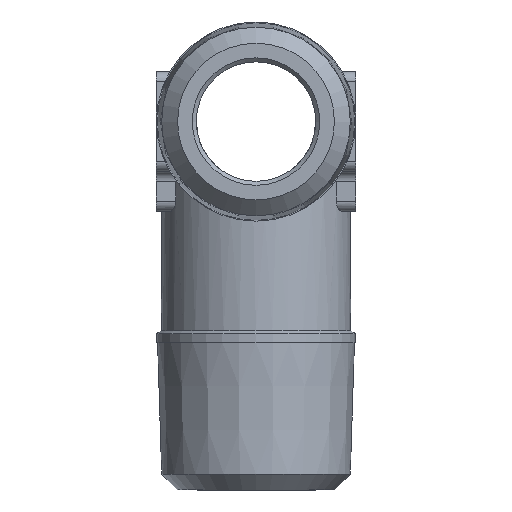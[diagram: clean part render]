
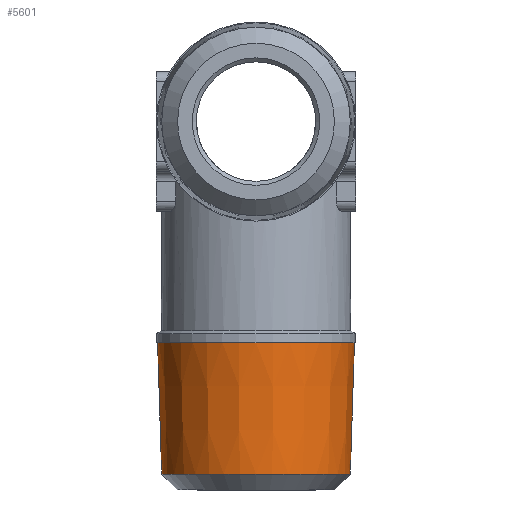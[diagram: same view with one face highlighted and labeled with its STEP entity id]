
A CAD part, left-side view. The second image highlights one B-rep face of the part: STEP entity #5601.
In plain terms, the highlighted conical face has half-angle 1.79 degrees and reference radius 4.942 mm.
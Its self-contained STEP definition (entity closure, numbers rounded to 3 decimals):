
#1512=ORIENTED_EDGE('',*,*,#1900,.F.);
#1513=ORIENTED_EDGE('',*,*,#1901,.F.);
#1758=CIRCLE('',#5490,4.736);
#1759=CIRCLE('',#5491,4.942);
#1806=VERTEX_POINT('',#2500);
#1807=VERTEX_POINT('',#2502);
#1900=EDGE_CURVE('',#1806,#1806,#1758,.T.);
#1901=EDGE_CURVE('',#1807,#1807,#1759,.T.);
#2034=EDGE_LOOP('',(#1512));
#2035=EDGE_LOOP('',(#1513));
#2120=FACE_BOUND('',#2034,.T.);
#2121=FACE_BOUND('',#2035,.T.);
#2227=DIRECTION('',(0.,1.,0.));
#2228=DIRECTION('',(0.,0.,1.));
#2229=DIRECTION('',(0.,-1.,0.));
#2230=DIRECTION('',(0.,0.,4.736));
#2231=DIRECTION('',(0.,1.,0.));
#2232=DIRECTION('',(0.,0.,-4.942));
#2499=CARTESIAN_POINT('',(32.783,13.46,0.));
#2500=CARTESIAN_POINT('',(32.783,6.86,4.736));
#2501=CARTESIAN_POINT('',(32.783,6.86,0.));
#2502=CARTESIAN_POINT('',(32.783,13.46,-4.942));
#2503=CARTESIAN_POINT('',(32.783,13.46,0.));
#5489=AXIS2_PLACEMENT_3D('',#2499,#2227,#2228);
#5490=AXIS2_PLACEMENT_3D('',#2501,#2229,#2230);
#5491=AXIS2_PLACEMENT_3D('',#2503,#2231,#2232);
#5585=CONICAL_SURFACE('',#5489,4.942,1.79);
#5601=ADVANCED_FACE('',(#2120,#2121),#5585,.T.);
